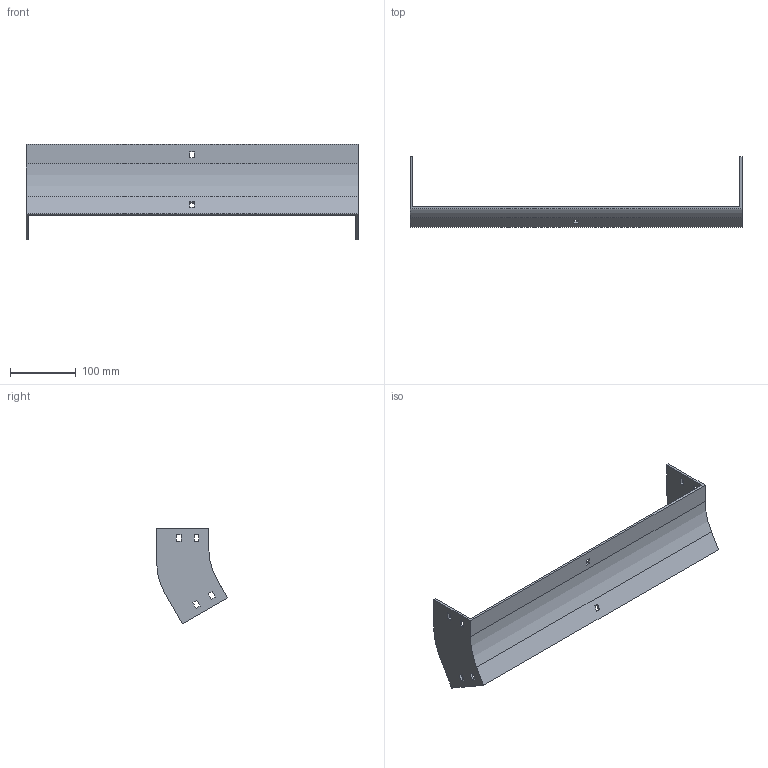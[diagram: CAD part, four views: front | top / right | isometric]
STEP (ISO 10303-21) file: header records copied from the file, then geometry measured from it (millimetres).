
FILE_DESCRIPTION (( 'STEP AP214' ), '1' );
FILE_NAME ('35F1C500.step', '2025-02-21T12:50:07', ( '' ), ( '' ), 'SwSTEP 2.0', 'SolidWorks 2023', '' );
FILE_SCHEMA (( 'AUTOMOTIVE_DESIGN' ));
Length unit declared in the file: millimetre
Products named in the file (1): 35F1C500
Bounding box: 504 x 107.4 x 145.48 mm (x, y, z)
Volume: 269195.5 mm3; surface area: 160656.4 mm2
Topology: 1 solids, 1 shells, 58 faces, 168 edges, 112 vertices
Faces by surface type: plane 54, cylinder 4
Entity records: 1943 total; most frequent: CARTESIAN_POINT 339, ORIENTED_EDGE 336, DIRECTION 294, EDGE_CURVE 168, LINE 160, VECTOR 160, VERTEX_POINT 112, EDGE_LOOP 78
